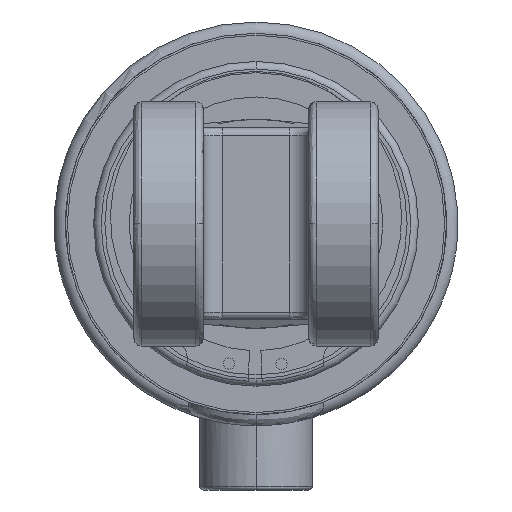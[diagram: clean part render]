
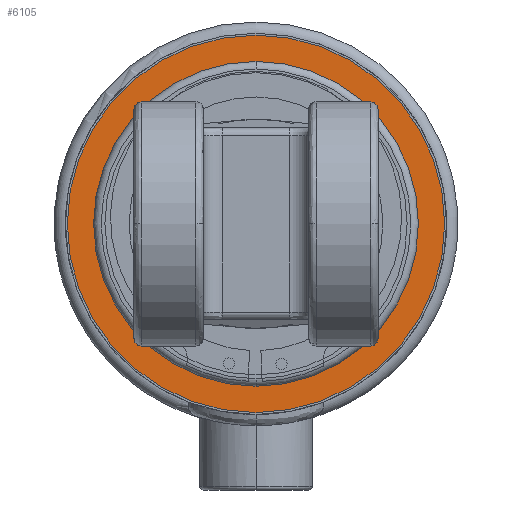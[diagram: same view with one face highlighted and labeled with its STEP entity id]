
A CAD part, left-side view. The second image highlights one B-rep face of the part: STEP entity #6105.
In plain terms, the highlighted planar face has unit normal (-1, 0, 0).
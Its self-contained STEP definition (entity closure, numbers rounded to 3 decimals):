
#81 = DIRECTION ( 'NONE',  ( 0., 0., 1. ) ) ;
#274 = AXIS2_PLACEMENT_3D ( 'NONE', #1573, #7767, #2454 ) ;
#284 = CARTESIAN_POINT ( 'NONE',  ( -570.005, 0., -50.2 ) ) ;
#490 = DIRECTION ( 'NONE',  ( 0., 0., 1. ) ) ;
#542 = VERTEX_POINT ( 'NONE', #284 ) ;
#550 = CIRCLE ( 'NONE', #1261, 50.2 ) ;
#635 = ORIENTED_EDGE ( 'NONE', *, *, #4554, .T. ) ;
#830 = DIRECTION ( 'NONE',  ( 0., 0., 1. ) ) ;
#1261 = AXIS2_PLACEMENT_3D ( 'NONE', #10593, #5364, #81 ) ;
#1573 = CARTESIAN_POINT ( 'NONE',  ( -570.005, 0., 0. ) ) ;
#1962 = CIRCLE ( 'NONE', #274, 43.2 ) ;
#2163 = CARTESIAN_POINT ( 'NONE',  ( -570.005, 0., -43.2 ) ) ;
#2251 = EDGE_CURVE ( 'NONE', #4920, #542, #550, .T. ) ;
#2454 = DIRECTION ( 'NONE',  ( 0., 0., 1. ) ) ;
#3145 = ORIENTED_EDGE ( 'NONE', *, *, #2251, .T. ) ;
#3744 = EDGE_LOOP ( 'NONE', ( #3145, #635 ) ) ;
#3785 = CIRCLE ( 'NONE', #10186, 50.2 ) ;
#4545 = DIRECTION ( 'NONE',  ( -1., 0., 0. ) ) ;
#4554 = EDGE_CURVE ( 'NONE', #542, #4920, #3785, .T. ) ;
#4758 = AXIS2_PLACEMENT_3D ( 'NONE', #11008, #5778, #490 ) ;
#4854 = VERTEX_POINT ( 'NONE', #2163 ) ;
#4899 = CARTESIAN_POINT ( 'NONE',  ( -570.005, 0., 50.2 ) ) ;
#4920 = VERTEX_POINT ( 'NONE', #4899 ) ;
#5364 = DIRECTION ( 'NONE',  ( -1., 0., 0. ) ) ;
#5404 = EDGE_CURVE ( 'NONE', #4854, #9659, #11089, .T. ) ;
#5745 = CARTESIAN_POINT ( 'NONE',  ( -570.005, 0., 43.2 ) ) ;
#5778 = DIRECTION ( 'NONE',  ( -1., 0., 0. ) ) ;
#5802 = AXIS2_PLACEMENT_3D ( 'NONE', #11369, #6126, #830 ) ;
#6105 = ADVANCED_FACE ( 'NONE', ( #8344, #6313 ), #9247, .T. ) ;
#6126 = DIRECTION ( 'NONE',  ( -1., 0., 0. ) ) ;
#6313 = FACE_BOUND ( 'NONE', #6344, .T. ) ;
#6344 = EDGE_LOOP ( 'NONE', ( #10576, #9795 ) ) ;
#7767 = DIRECTION ( 'NONE',  ( -1., 0., 0. ) ) ;
#8344 = FACE_OUTER_BOUND ( 'NONE', #3744, .T. ) ;
#8543 = EDGE_CURVE ( 'NONE', #9659, #4854, #1962, .T. ) ;
#9247 = PLANE ( 'NONE',  #4758 ) ;
#9659 = VERTEX_POINT ( 'NONE', #5745 ) ;
#9795 = ORIENTED_EDGE ( 'NONE', *, *, #5404, .F. ) ;
#9807 = CARTESIAN_POINT ( 'NONE',  ( -570.005, 0., 0. ) ) ;
#10186 = AXIS2_PLACEMENT_3D ( 'NONE', #9807, #4545, #10676 ) ;
#10576 = ORIENTED_EDGE ( 'NONE', *, *, #8543, .F. ) ;
#10593 = CARTESIAN_POINT ( 'NONE',  ( -570.005, 0., 0. ) ) ;
#10676 = DIRECTION ( 'NONE',  ( 0., 0., 1. ) ) ;
#11008 = CARTESIAN_POINT ( 'NONE',  ( -570.005, 0., -50.2 ) ) ;
#11089 = CIRCLE ( 'NONE', #5802, 43.2 ) ;
#11369 = CARTESIAN_POINT ( 'NONE',  ( -570.005, 0., 0. ) ) ;
